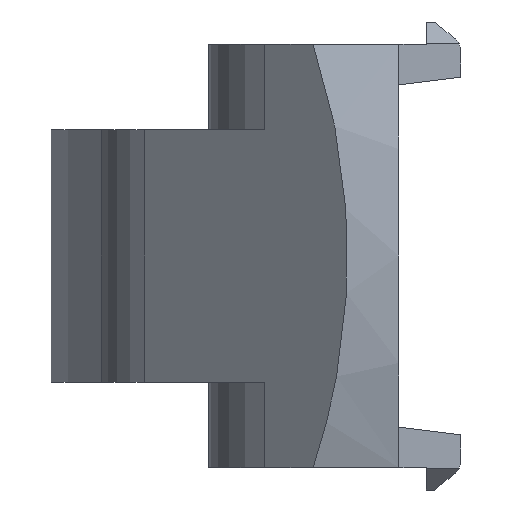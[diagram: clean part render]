
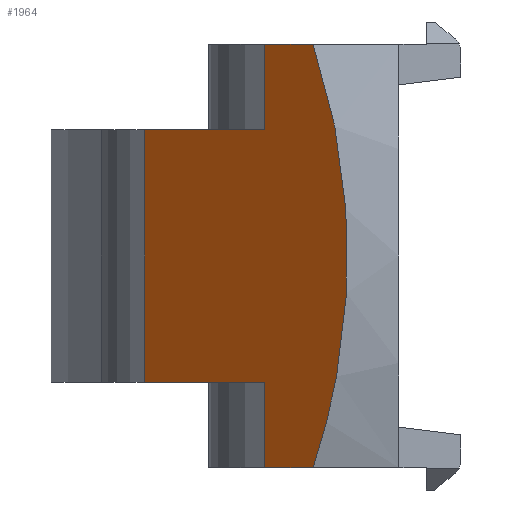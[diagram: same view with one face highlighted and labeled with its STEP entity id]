
A CAD part, left-side view. The second image highlights one B-rep face of the part: STEP entity #1964.
In plain terms, the highlighted planar face has unit normal (-0.743, 0.669, 0).
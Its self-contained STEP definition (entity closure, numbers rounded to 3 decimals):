
#45=ELLIPSE('',#2092,39.305,26.3);
#161=ORIENTED_EDGE('',*,*,#753,.T.);
#162=ORIENTED_EDGE('',*,*,#754,.T.);
#163=ORIENTED_EDGE('',*,*,#727,.F.);
#164=ORIENTED_EDGE('',*,*,#755,.T.);
#165=ORIENTED_EDGE('',*,*,#756,.F.);
#166=ORIENTED_EDGE('',*,*,#757,.T.);
#167=ORIENTED_EDGE('',*,*,#758,.T.);
#168=ORIENTED_EDGE('',*,*,#759,.T.);
#727=EDGE_CURVE('',#1023,#1024,#1215,.T.);
#753=EDGE_CURVE('',#1047,#1048,#1237,.T.);
#754=EDGE_CURVE('',#1048,#1024,#45,.F.);
#755=EDGE_CURVE('',#1023,#1049,#1238,.T.);
#756=EDGE_CURVE('',#1050,#1049,#1239,.T.);
#757=EDGE_CURVE('',#1050,#1051,#1240,.T.);
#758=EDGE_CURVE('',#1051,#1052,#1241,.T.);
#759=EDGE_CURVE('',#1052,#1047,#1242,.T.);
#1023=VERTEX_POINT('',#2862);
#1024=VERTEX_POINT('',#2864);
#1047=VERTEX_POINT('',#2916);
#1048=VERTEX_POINT('',#2917);
#1049=VERTEX_POINT('',#2920);
#1050=VERTEX_POINT('',#2922);
#1051=VERTEX_POINT('',#2924);
#1052=VERTEX_POINT('',#2926);
#1215=LINE('',#2863,#1455);
#1237=LINE('',#2915,#1477);
#1238=LINE('',#2919,#1478);
#1239=LINE('',#2921,#1479);
#1240=LINE('',#2923,#1480);
#1241=LINE('',#2925,#1481);
#1242=LINE('',#2927,#1482);
#1455=VECTOR('',#2279,1000.);
#1477=VECTOR('',#2315,1000.);
#1478=VECTOR('',#2318,1000.);
#1479=VECTOR('',#2319,1000.);
#1480=VECTOR('',#2320,1000.);
#1481=VECTOR('',#2321,1000.);
#1482=VECTOR('',#2322,1000.);
#1677=EDGE_LOOP('',(#161,#162,#163,#164,#165,#166,#167,#168));
#1781=FACE_BOUND('',#1677,.T.);
#1885=PLANE('',#2091);
#1964=ADVANCED_FACE('',(#1781),#1885,.F.);
#2091=AXIS2_PLACEMENT_3D('',#2914,#2313,#2314);
#2092=AXIS2_PLACEMENT_3D('',#2918,#2316,#2317);
#2279=DIRECTION('',(-0.669,-0.743,0.));
#2313=DIRECTION('',(0.743,-0.669,0.));
#2314=DIRECTION('',(0.669,0.743,0.));
#2315=DIRECTION('',(-0.669,-0.743,0.));
#2316=DIRECTION('',(0.743,-0.669,0.));
#2317=DIRECTION('',(-0.669,-0.743,0.));
#2318=DIRECTION('',(0.,0.,-1.));
#2319=DIRECTION('',(-0.669,-0.743,0.));
#2320=DIRECTION('',(0.,0.,-1.));
#2321=DIRECTION('',(-0.669,-0.743,0.));
#2322=DIRECTION('',(0.,0.,-1.));
#2862=CARTESIAN_POINT('',(-23.642,4.782,7.55));
#2863=CARTESIAN_POINT('',(-23.642,4.782,7.55));
#2864=CARTESIAN_POINT('',(-25.193,3.059,7.55));
#2914=CARTESIAN_POINT('',(-23.642,4.782,7.55));
#2915=CARTESIAN_POINT('',(-23.642,4.782,-7.55));
#2916=CARTESIAN_POINT('',(-23.642,4.782,-7.55));
#2917=CARTESIAN_POINT('',(-25.193,3.059,-7.55));
#2918=CARTESIAN_POINT('',(0.,31.039,0.));
#2919=CARTESIAN_POINT('',(-23.642,4.782,7.55));
#2920=CARTESIAN_POINT('',(-23.642,4.782,4.5));
#2921=CARTESIAN_POINT('',(-19.776,9.076,4.5));
#2922=CARTESIAN_POINT('',(-19.776,9.076,4.5));
#2923=CARTESIAN_POINT('',(-19.776,9.076,4.5));
#2924=CARTESIAN_POINT('',(-19.776,9.076,-4.5));
#2925=CARTESIAN_POINT('',(-19.776,9.076,-4.5));
#2926=CARTESIAN_POINT('',(-23.642,4.782,-4.5));
#2927=CARTESIAN_POINT('',(-23.642,4.782,7.55));
